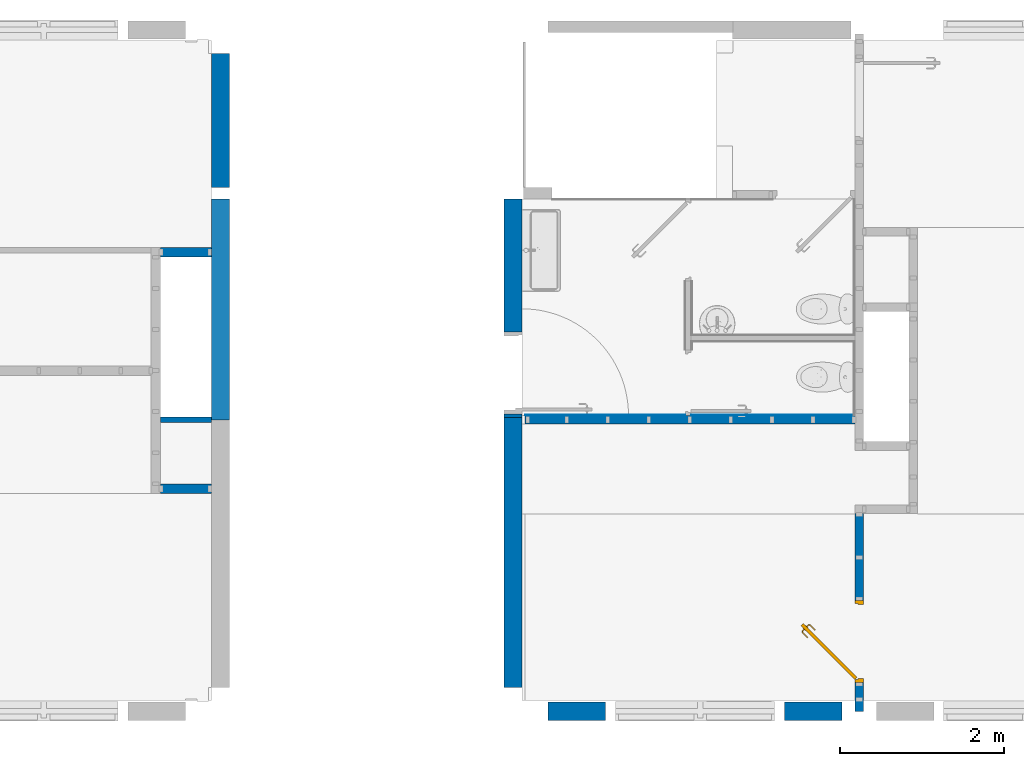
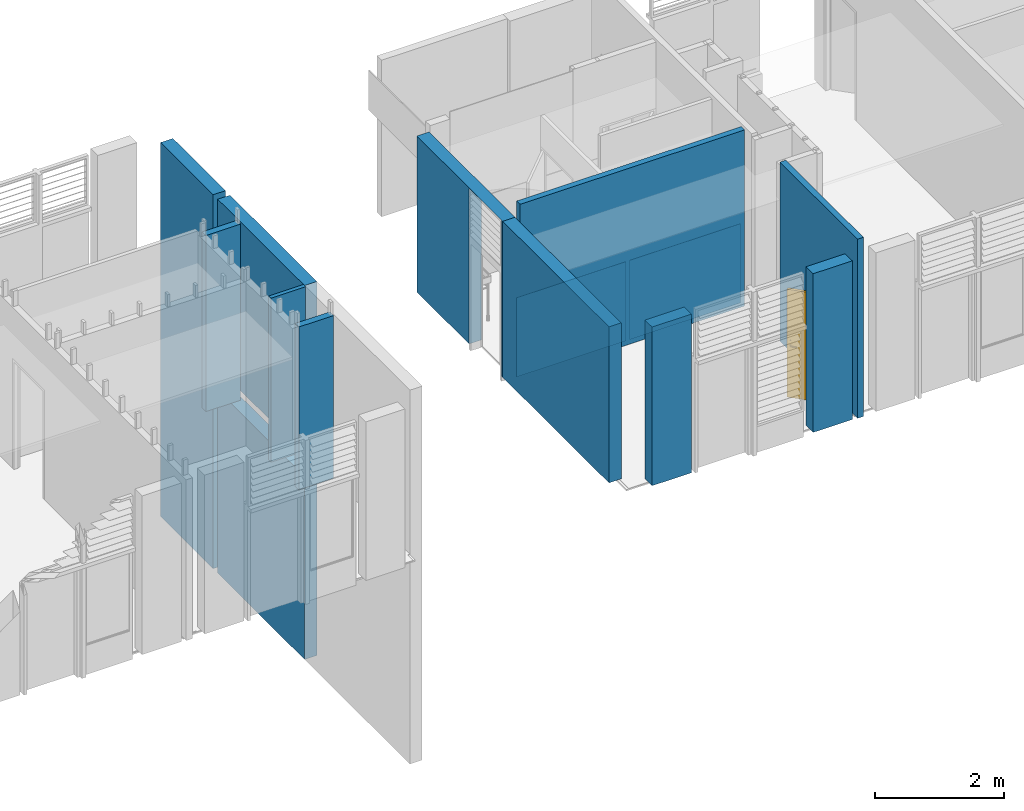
# One storey, part 6 of 20: 14 walls, 1 door, 3 openings.
"""IFC2X3 building model written with IfcOpenShell, lengths in metres."""

from ifc_helpers import new_model, entity, si_unit, converted_unit, derived_unit, direction, frame, frame_2d, origin, place, context, subcontext, project, spatial, rectangle, extrude, faceted_brep, source, transform, mapped, material, layer, layer_set, layer_usage, type_object, type_shapes, element, fill, save


model = new_model("IFC2X3")

# Units and contexts
model_context = context("Model", 3, precision=1e-05, world=origin(), true_north=direction((6.12303176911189e-17, 1.0)))
body_context = subcontext(model_context, "Body", "Model", "MODEL_VIEW")
ifc_project = project(units=[si_unit("LENGTHUNIT", "METRE"), si_unit("AREAUNIT", "SQUARE_METRE"), si_unit("VOLUMEUNIT", "CUBIC_METRE"), converted_unit("PLANEANGLEUNIT", "DEGREE", entity("IfcRatioMeasure", 0.0174532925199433), si_unit("PLANEANGLEUNIT", "RADIAN"), dimensions=[0, 0, 0, 0, 0, 0, 0]), si_unit("MASSUNIT", "GRAM", prefix="KILO"), derived_unit("MASSDENSITYUNIT", [(si_unit("MASSUNIT", "GRAM", prefix="KILO"), 1), (si_unit("LENGTHUNIT", "METRE"), -3)]), si_unit("TIMEUNIT", "SECOND"), si_unit("FREQUENCYUNIT", "HERTZ"), si_unit("THERMODYNAMICTEMPERATUREUNIT", "DEGREE_CELSIUS"), derived_unit("THERMALTRANSMITTANCEUNIT", [(si_unit("MASSUNIT", "GRAM", prefix="KILO"), 1), (si_unit("THERMODYNAMICTEMPERATUREUNIT", "KELVIN"), -1), (si_unit("TIMEUNIT", "SECOND"), -3)]), derived_unit("VOLUMETRICFLOWRATEUNIT", [(si_unit("LENGTHUNIT", "METRE"), 3), (si_unit("TIMEUNIT", "SECOND"), -1)]), si_unit("ELECTRICCURRENTUNIT", "AMPERE"), si_unit("ELECTRICVOLTAGEUNIT", "VOLT"), si_unit("POWERUNIT", "WATT"), si_unit("FORCEUNIT", "NEWTON", prefix="KILO"), si_unit("ILLUMINANCEUNIT", "LUX"), si_unit("LUMINOUSFLUXUNIT", "LUMEN"), si_unit("LUMINOUSINTENSITYUNIT", "CANDELA"), derived_unit("USERDEFINED", [(si_unit("MASSUNIT", "GRAM", prefix="KILO"), -1), (si_unit("LENGTHUNIT", "METRE"), -2), (si_unit("TIMEUNIT", "SECOND"), 3), (si_unit("LUMINOUSFLUXUNIT", "LUMEN"), 1)]), derived_unit("LINEARVELOCITYUNIT", [(si_unit("LENGTHUNIT", "METRE"), 1), (si_unit("TIMEUNIT", "SECOND"), -1)]), si_unit("PRESSUREUNIT", "PASCAL"), derived_unit("USERDEFINED", [(si_unit("LENGTHUNIT", "METRE"), -2), (si_unit("MASSUNIT", "GRAM", prefix="KILO"), 1), (si_unit("TIMEUNIT", "SECOND"), -2)])], contexts=[model_context])

# Site, building, storey
site_placement = place(None, origin())
site = spatial("IfcSite", under=ifc_project, at=site_placement, Name="Surface", CompositionType="ELEMENT")
building_placement = place(site_placement, origin())
building = spatial("IfcBuilding", under=site, at=building_placement, Name="ExPREF", CompositionType="ELEMENT")
storey_placement = place(building_placement, frame((0.0, 0.0, 4.27)))
storey = spatial("IfcBuildingStorey", under=building, at=storey_placement, Name="R+1", CompositionType="ELEMENT", Elevation=4.27)

# Walls
ifc_material_1 = material(Name="AA-mur cloison finition")
ifc_layer_1 = layer(ifc_material_1, 0.018)
ifc_material_2 = material(Name="AA-isolant plancher")
ifc_layer_2 = layer(ifc_material_2, 0.08)
ifc_layer_3 = layer(ifc_material_1, 0.018)
ifc_layer_set_1 = layer_set([ifc_layer_1, ifc_layer_2, ifc_layer_3], Name="Mur de base:A-cloison CP 11.6 cm")
ifc_layer_usage_1 = layer_usage(ifc_layer_set_1, "AXIS2", "POSITIVE", -0.058)
wall_type_1 = type_object("IfcWallType", Name="Mur de base:A-cloison CP 11.6 cm", PredefinedType="STANDARD", material=ifc_layer_set_1)
wall_1_placement = place(storey_placement, frame((40.977743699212, -187.76606962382, -0.270000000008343)))
element("IfcWallStandardCase", 1, at=wall_1_placement, inside=storey, type_object=wall_type_1, material=ifc_layer_usage_1, Name="Mur de base:A-cloison CP 11.6 cm", ObjectType="Mur de base:A-cloison CP 11.6 cm", context=body_context, shape_type="SweptSolid", body=[
    extrude(rectangle(XDim=0.621999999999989, YDim=0.115999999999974, at=frame_2d((0.310999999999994, 0.0), x_axis=(-1.0, 0.0))), origin(), (0.0, 0.0, 1.0), 3.33000000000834),
])
ifc_layer_usage_2 = layer_usage(ifc_layer_set_1, "AXIS2", "POSITIVE", -0.058)
wall_2_placement = place(storey_placement, frame((40.977743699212, -190.65006962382, 0.0)))
element("IfcWallStandardCase", 2, at=wall_2_placement, inside=storey, type_object=wall_type_1, material=ifc_layer_usage_2, Name="Mur de base:A-cloison CP 11.6 cm", ObjectType="Mur de base:A-cloison CP 11.6 cm", context=body_context, shape_type="SweptSolid", body=[
    extrude(rectangle(XDim=0.621999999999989, YDim=0.115999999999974, at=frame_2d((0.310999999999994, 0.0), x_axis=(-1.0, 0.0))), origin(), (0.0, 0.0, 1.0), 3.08),
])

# Wall, opening, door
ifc_material_3 = material(Name="AA-peinture blanc satiné")
ifc_layer_4 = layer(ifc_material_3, 0.0125)
ifc_layer_5 = layer(ifc_material_2, 0.08)
ifc_layer_6 = layer(ifc_material_3, 0.0125)
ifc_layer_set_2 = layer_set([ifc_layer_4, ifc_layer_5, ifc_layer_6], Name="Mur de base:A-cloison FC 10.5 cm")
ifc_layer_usage_3 = layer_usage(ifc_layer_set_2, "AXIS2", "NEGATIVE", 0.0525)
wall_type_2 = type_object("IfcWallType", Name="Mur de base:A-cloison FC 10.5 cm", PredefinedType="STANDARD", material=ifc_layer_set_2)
wall_3_placement = place(storey_placement, frame((49.4897436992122, -190.952569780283, 0.0), z_axis=(0.0, 0.0, 1.0), x_axis=(0.0, -1.0, 0.0)))
wall_3 = element("IfcWallStandardCase", 3, at=wall_3_placement, inside=storey, type_object=wall_type_2, material=ifc_layer_usage_3, Name="Mur de base:A-cloison FC 10.5 cm", ObjectType="Mur de base:A-cloison FC 10.5 cm", context=body_context, shape_type="SweptSolid", body=[
    extrude(rectangle(XDim=2.40708152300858, YDim=0.104999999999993, at=frame_2d((1.20354076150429, -1.81799020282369e-15), x_axis=(-1.0, 0.0))), origin(), (0.0, 0.0, 1.0), 3.385),
])
opening_1_placement = place(wall_3_placement, frame((2.05708152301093, 0.0525000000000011, 0.0)))
opening_1 = element("IfcOpeningElement", 4, at=opening_1_placement, cuts=wall_3, Name="Porte intérieur bois:PP (0.93m x 2.04m):1", ObjectType="Opening", context=body_context, shape_type="SweptSolid", body=[
    extrude(rectangle(XDim=2.075, YDim=1.0, at=frame_2d((1.0375, 0.5), x_axis=(1.0, 0.0))), frame((0.0, 0.0, 0.0), z_axis=(0.0, -1.0, 0.0), x_axis=(0.0, 0.0, 1.0)), (0.0, 0.0, 1.0), 0.105),
])
ifc_material_4 = material(Name="AA-Blanc satiné")
door_style = type_object("IfcDoorStyle", Name="PP (0.93m x 2.04m)", ConstructionType="NOTDEFINED", OperationType="SINGLE_SWING_LEFT", ParameterTakesPrecedence=False, Sizeable=False, material=ifc_material_4)
shared_shape = source(origin(), body_context, "Body", "Brep", [
    faceted_brep([(0.316565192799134, -0.584795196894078, 1.00778044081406), (0.313754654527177, -0.587605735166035, 1.007), (0.31375465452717, -0.587605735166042, 0.992999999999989), (0.316565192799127, -0.584795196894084, 0.99221955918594), (0.319429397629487, -0.581930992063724, 0.992219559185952), (0.32223993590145, -0.579120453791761, 0.993000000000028), (0.322239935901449, -0.579120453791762, 1.007), (0.319429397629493, -0.581930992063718, 1.00778044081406), (0.306340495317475, -0.563221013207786, 0.993000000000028), (0.306340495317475, -0.563221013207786, 1.007), (0.302365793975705, -0.56486738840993, 1.00778044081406), (0.302365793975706, -0.545331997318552, 1.00778044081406), (0.298315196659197, -0.543654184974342, 1.00778044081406), (0.298315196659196, -0.56654520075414, 1.00778044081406), (0.294340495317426, -0.568191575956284, 1.007), (0.294340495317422, -0.568191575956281, 0.992999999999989), (0.298315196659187, -0.566545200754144, 0.99221955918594), (0.298315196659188, -0.543654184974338, 0.99221955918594), (0.302365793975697, -0.545331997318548, 0.992219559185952), (0.302365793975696, -0.564867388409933, 0.992219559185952), (0.306340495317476, -0.546978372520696, 0.993000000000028), (0.306340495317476, -0.546978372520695, 1.007), (0.294340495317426, -0.542007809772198, 1.007), (0.294340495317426, -0.542007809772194, 0.992999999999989), (0.36471958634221, -0.488599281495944, 0.993000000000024), (0.361909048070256, -0.485788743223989, 0.992219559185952), (0.359044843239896, -0.48292453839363, 0.99221955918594), (0.356234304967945, -0.480114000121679, 0.992999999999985), (0.356234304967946, -0.480114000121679, 1.007), (0.359044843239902, -0.482924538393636, 1.00778044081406), (0.361909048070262, -0.485788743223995, 1.00778044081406), (0.364719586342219, -0.488599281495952, 1.007), (0.335530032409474, -0.517788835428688, 0.993000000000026), (0.335530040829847, -0.517788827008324, 1.007), (0.330705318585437, -0.51412826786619, 1.0078786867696), (0.322575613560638, -0.513772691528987, 1.007), (0.322575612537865, -0.513772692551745, 0.992999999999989), (0.330705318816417, -0.514128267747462, 0.992121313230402)], [[[0, 1, 2, 3, 4, 5, 6, 7]], [[6, 5, 8, 9]], [[9, 10, 7, 6]], [[10, 11, 12, 13, 0, 7]], [[13, 14, 1, 0]], [[2, 1, 14, 15]], [[15, 16, 3, 2]], [[16, 17, 18, 19, 4, 3]], [[19, 8, 5, 4]], [[9, 8, 20, 21]], [[21, 11, 10, 9]], [[12, 22, 14, 13]], [[15, 14, 22, 23]], [[23, 17, 16, 15]], [[18, 20, 8, 19]], [[24, 25, 26, 27, 28, 29, 30, 31]], [[21, 20, 32, 24, 31, 33]], [[33, 30, 34]], [[35, 34, 29]], [[21, 33, 11]], [[33, 31, 30]], [[28, 35, 29]], [[22, 12, 35]], [[35, 12, 34]], [[12, 11, 34]], [[11, 33, 34]], [[29, 34, 30]], [[22, 35, 28, 27, 36, 23]], [[36, 26, 37]], [[27, 26, 36]], [[17, 23, 36]], [[37, 32, 18]], [[20, 18, 32]], [[32, 25, 24]], [[26, 25, 37]], [[25, 32, 37]], [[17, 36, 37]], [[17, 37, 18]]]),
    faceted_brep([(0.351920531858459, -0.620150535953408, 1.00778044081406), (0.354784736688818, -0.617286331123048, 1.00778044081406), (0.357595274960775, -0.614475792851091, 1.00699999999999), (0.357595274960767, -0.614475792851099, 0.993000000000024), (0.354784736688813, -0.617286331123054, 0.992219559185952), (0.351920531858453, -0.620150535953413, 0.99221955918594), (0.349109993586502, -0.622961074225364, 0.992999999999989), (0.349109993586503, -0.622961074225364, 1.007), (0.368662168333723, -0.642513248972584, 1.007), (0.370308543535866, -0.638538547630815, 1.00778044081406), (0.3930050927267, -0.638538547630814, 1.00778044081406), (0.391327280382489, -0.634487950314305, 1.00778044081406), (0.371986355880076, -0.634487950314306, 1.00778044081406), (0.373632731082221, -0.630513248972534, 1.007), (0.373632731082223, -0.630513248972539, 0.993000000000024), (0.371986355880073, -0.634487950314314, 0.992219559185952), (0.391327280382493, -0.634487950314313, 0.992219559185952), (0.393005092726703, -0.638538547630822, 0.99221955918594), (0.370308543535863, -0.638538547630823, 0.99221955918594), (0.368662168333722, -0.642513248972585, 0.992999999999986), (0.394651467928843, -0.642513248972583, 1.007), (0.389680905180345, -0.630513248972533, 1.007), (0.38968090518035, -0.630513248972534, 0.993000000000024), (0.394651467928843, -0.642513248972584, 0.992999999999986), (0.456623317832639, -0.580541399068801, 0.992999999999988), (0.453812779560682, -0.577730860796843, 0.99221955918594), (0.450948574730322, -0.574866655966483, 0.992219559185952), (0.448138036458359, -0.57205611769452, 0.993000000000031), (0.44813803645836, -0.572056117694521, 1.007), (0.450948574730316, -0.574866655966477, 1.00778044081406), (0.453812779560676, -0.577730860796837, 1.00778044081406), (0.456623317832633, -0.580541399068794, 1.00699999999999), (0.422886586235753, -0.614278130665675, 1.007), (0.422570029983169, -0.606109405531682, 1.0078786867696), (0.418909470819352, -0.601284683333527, 1.007), (0.418909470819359, -0.601284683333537, 0.993000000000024), (0.422570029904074, -0.606109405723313, 0.992121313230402), (0.422886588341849, -0.614278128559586, 0.992999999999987)], [[[0, 1, 2, 3, 4, 5, 6, 7]], [[8, 9, 0, 7]], [[9, 10, 11, 12, 1, 0]], [[12, 13, 2, 1]], [[3, 2, 13, 14]], [[14, 15, 4, 3]], [[15, 16, 17, 18, 5, 4]], [[18, 19, 6, 5]], [[7, 6, 19, 8]], [[20, 10, 9, 8]], [[11, 21, 13, 12]], [[14, 13, 21, 22]], [[22, 16, 15, 14]], [[17, 23, 19, 18]], [[8, 19, 23, 20]], [[24, 25, 26, 27, 28, 29, 30, 31]], [[32, 30, 33]], [[31, 30, 32]], [[10, 20, 32]], [[33, 34, 11]], [[21, 11, 34]], [[34, 29, 28]], [[30, 29, 33]], [[29, 34, 33]], [[10, 32, 33]], [[10, 33, 11]], [[22, 21, 34, 28, 27, 35]], [[35, 26, 36]], [[37, 36, 25]], [[22, 35, 16]], [[35, 27, 26]], [[24, 37, 25]], [[23, 17, 37]], [[37, 17, 36]], [[17, 16, 36]], [[16, 35, 36]], [[25, 36, 26]], [[20, 23, 37, 24, 31, 32]]]),
    faceted_brep([(0.328853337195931, -0.579578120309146, 0.866003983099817), (0.335674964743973, -0.572756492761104, 0.870000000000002), (0.335674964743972, -0.572756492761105, 1.08), (0.32885333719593, -0.579578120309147, 1.08399601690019), (0.321532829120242, -0.586898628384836, 1.08535898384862), (0.314212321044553, -0.594219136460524, 1.08399601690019), (0.307390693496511, -0.601040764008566, 1.08), (0.307390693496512, -0.601040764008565, 0.870000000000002), (0.314212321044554, -0.594219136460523, 0.866003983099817), (0.321532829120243, -0.586898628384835, 0.86464101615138), (0.325317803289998, -0.576042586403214, 1.08399601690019), (0.33213943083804, -0.569220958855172, 1.08), (0.332139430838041, -0.569220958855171, 0.870000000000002), (0.325317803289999, -0.576042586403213, 0.866003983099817), (0.31799729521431, -0.583363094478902, 0.86464101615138), (0.310676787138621, -0.59068360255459, 0.866003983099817), (0.303855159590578, -0.597505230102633, 0.870000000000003), (0.303855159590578, -0.597505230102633, 1.08), (0.31067678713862, -0.590683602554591, 1.08399601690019), (0.317997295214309, -0.583363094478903, 1.08535898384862)], [[[0, 1, 2, 3, 4, 5, 6, 7, 8, 9]], [[10, 11, 12, 13, 14, 15, 16, 17, 18, 19]], [[11, 10, 3, 2]], [[3, 10, 19, 4]], [[19, 18, 5, 4]], [[18, 17, 6, 5]], [[7, 6, 17, 16]], [[16, 15, 8, 7]], [[8, 15, 14, 9]], [[14, 13, 0, 9]], [[13, 12, 1, 0]], [[2, 1, 12, 11]]]),
    faceted_brep([(0.360673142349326, -0.61139792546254, 0.866003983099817), (0.367494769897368, -0.604576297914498, 0.870000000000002), (0.367494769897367, -0.604576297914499, 1.08), (0.360673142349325, -0.611397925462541, 1.08399601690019), (0.353352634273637, -0.61871843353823, 1.08535898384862), (0.346032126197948, -0.626038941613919, 1.08399601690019), (0.339210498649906, -0.632860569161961, 1.08), (0.339210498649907, -0.63286056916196, 0.870000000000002), (0.346032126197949, -0.626038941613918, 0.866003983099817), (0.353352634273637, -0.618718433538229, 0.86464101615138), (0.357137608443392, -0.607862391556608, 1.08399601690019), (0.363959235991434, -0.601040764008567, 1.08), (0.363959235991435, -0.601040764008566, 0.870000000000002), (0.357137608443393, -0.607862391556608, 0.866003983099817), (0.349817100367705, -0.615182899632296, 0.86464101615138), (0.342496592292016, -0.622503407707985, 0.866003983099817), (0.335674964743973, -0.629325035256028, 0.870000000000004), (0.335674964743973, -0.629325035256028, 1.08), (0.342496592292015, -0.622503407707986, 1.08399601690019), (0.349817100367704, -0.615182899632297, 1.08535898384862)], [[[0, 1, 2, 3, 4, 5, 6, 7, 8, 9]], [[10, 11, 12, 13, 14, 15, 16, 17, 18, 19]], [[16, 15, 8, 7]], [[8, 15, 14, 9]], [[14, 13, 0, 9]], [[13, 12, 1, 0]], [[2, 1, 12, 11]], [[11, 10, 3, 2]], [[3, 10, 19, 4]], [[19, 18, 5, 4]], [[18, 17, 6, 5]], [[7, 6, 17, 16]]]),
    faceted_brep([(0.279106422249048, -0.629325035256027, 2.04), (0.936715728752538, 0.0282842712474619, 2.04), (0.936715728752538, 0.0282842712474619, 0.0), (0.279106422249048, -0.629325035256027, 0.0), (0.30739069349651, -0.657609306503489, 2.04), (0.30739069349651, -0.657609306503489, 0.0), (0.965, 0.0, 0.0), (0.965, 0.0, 2.04)], [[[0, 1, 2, 3]], [[4, 5, 6, 7]], [[1, 0, 4, 7]], [[2, 1, 7, 6]], [[3, 2, 6, 5]], [[0, 3, 5, 4]]]),
    faceted_brep([(0.0, 0.0, 0.0), (0.0, 0.105000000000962, 0.0), (0.0499999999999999, 0.105000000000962, 0.0), (0.0499999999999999, 0.0400000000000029, 0.0), (0.0349999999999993, 0.0400000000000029, 0.0), (0.0349999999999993, 0.0, 0.0), (0.0, 0.0, 2.07500000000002), (0.0, 0.105000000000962, 2.07500000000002), (1.0, 0.105000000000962, 2.07500000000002), (1.0, 0.105000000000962, 0.0), (0.95, 0.105000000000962, 0.0), (0.95, 0.105000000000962, 2.025), (0.0500000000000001, 0.105000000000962, 2.025), (0.05, 0.0400000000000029, 2.025), (0.95, 0.0400000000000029, 2.025), (0.95, 0.0400000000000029, 0.0), (0.965, 0.0400000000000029, 0.0), (0.965, 0.0400000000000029, 2.04), (0.0349999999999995, 0.0400000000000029, 2.04), (0.0349999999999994, 0.0, 2.04), (0.965, 0.0, 2.04), (0.965, 0.0, 0.0), (1.0, 0.0, 0.0), (1.0, 0.0, 2.07500000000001)], [[[0, 1, 2, 3, 4, 5]], [[1, 0, 6, 7]], [[2, 1, 7, 8, 9, 10, 11, 12]], [[3, 2, 12, 13]], [[4, 3, 13, 14, 15, 16, 17, 18]], [[5, 4, 18, 19]], [[0, 5, 19, 20, 21, 22, 23, 6]], [[8, 23, 22, 9]], [[22, 21, 16, 15, 10, 9]], [[14, 11, 10, 15]], [[20, 17, 16, 21]], [[7, 6, 23, 8]], [[13, 12, 11, 14]], [[19, 18, 17, 20]]]),
])
type_shapes(door_style, [shared_shape])
door_placement = place(opening_1_placement, frame((-1.0, -0.105000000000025, 0.0)))
door = element("IfcDoor", 5, at=door_placement, inside=storey, type_object=door_style, material=ifc_material_4, Name="Porte intérieur bois:PP (0.93m x 2.04m)", ObjectType="PP (0.93m x 2.04m)", OverallHeight=2.075, OverallWidth=1.00000000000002, context=body_context, shape_type="MappedRepresentation", body=[
    mapped(shared_shape, transform((0.0, 0.0, 0.0), scale=1.0)),
])
fill(opening_1, door)

# Wall, opening
ifc_layer_usage_4 = layer_usage(ifc_layer_set_2, "AXIS2", "NEGATIVE", 0.0525)
wall_4_placement = place(storey_placement, frame((45.419743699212, -189.80806962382, 0.0)))
wall_4 = element("IfcWallStandardCase", 6, at=wall_4_placement, inside=storey, type_object=wall_type_2, material=ifc_layer_usage_4, Name="Mur de base:A-cloison FC 10.5 cm", ObjectType="Mur de base:A-cloison FC 10.5 cm", context=body_context, shape_type="SweptSolid", body=[
    extrude(rectangle(XDim=4.01750000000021, YDim=0.104999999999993, at=frame_2d((2.00875000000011, 0.0), x_axis=(-1.0, 0.0))), origin(), (0.0, 0.0, 1.0), 3.33),
])
opening_2_placement = place(wall_4_placement, frame((1.95400000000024, 0.0524999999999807, 0.0)))
element("IfcOpeningElement", 7, at=opening_2_placement, cuts=wall_4, Name="Mur de base:A-cloison FC 10.5 cm", ObjectType="Opening", context=body_context, shape_type="SweptSolid", body=[
    extrude(rectangle(XDim=2.075, YDim=0.0700000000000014, at=frame_2d((0.0, 0.0), x_axis=(0.0, 1.0))), frame((0.0350000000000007, 0.0, 1.0375), z_axis=(0.0, 1.0, 0.0), x_axis=(1.0, 0.0, 0.0)), (0.0, 0.0, 1.0), 0.800000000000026),
])

# Walls
ifc_material_5 = material(Name="AA-fermacell peint")
ifc_layer_7 = layer(ifc_material_5, 0.0125)
ifc_layer_8 = layer(ifc_material_2, 0.045)
ifc_layer_9 = layer(ifc_material_5, 0.0125)
ifc_layer_set_3 = layer_set([ifc_layer_7, ifc_layer_8, ifc_layer_9], Name="Mur de base:Générique - Int. 70 mm")
ifc_layer_usage_5 = layer_usage(ifc_layer_set_3, "AXIS2", "POSITIVE", -0.035)
wall_type_3 = type_object("IfcWallType", Name="Mur de base:Générique - Int. 70 mm", PredefinedType="STANDARD", material=ifc_layer_set_3)
wall_5_placement = place(storey_placement, frame((40.977743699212, -189.80806962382, 0.0)))
element("IfcWallStandardCase", 8, at=wall_5_placement, inside=storey, type_object=wall_type_3, material=ifc_layer_usage_5, Name="Mur de base:Générique - Int. 70 mm", ObjectType="Mur de base:Générique - Int. 70 mm", context=body_context, shape_type="SweptSolid", body=[
    extrude(rectangle(XDim=0.621999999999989, YDim=0.0700000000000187, at=frame_2d((0.310999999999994, 0.0), x_axis=(-1.0, 0.0))), origin(), (0.0, 0.0, 1.0), 3.1),
])
ifc_material_6 = material(Name="AA-BTC")
ifc_layer_10 = layer(ifc_material_6, 0.22)
ifc_layer_set_4 = layer_set([ifc_layer_10], Name="Mur de base:A-prémur BTC")
ifc_layer_usage_6 = layer_usage(ifc_layer_set_4, "AXIS2", "POSITIVE", -0.11)
wall_type_4 = type_object("IfcWallType", Name="Mur de base:A-prémur BTC", PredefinedType="STANDARD", material=ifc_layer_set_4)
wall_6_placement = place(storey_placement, frame((41.709743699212, -185.346488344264, -3.9700000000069), z_axis=(0.0, 0.0, 1.0), x_axis=(0.0, -1.0, 0.0)))
element("IfcWallStandardCase", 9, at=wall_6_placement, inside=storey, type_object=wall_type_4, material=ifc_layer_usage_6, Name="Mur de base:A-prémur BTC", ObjectType="Mur de base:A-prémur BTC", context=body_context, shape_type="SweptSolid", body=[
    extrude(rectangle(XDim=1.62999991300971, YDim=0.220000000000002, at=frame_2d((0.814999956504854, 0.0), x_axis=(-1.0, 0.0))), origin(), (0.0, 0.0, 1.0), 7.07000000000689),
])
ifc_layer_usage_7 = layer_usage(ifc_layer_set_4, "AXIS2", "NEGATIVE", 0.11)
wall_7_placement = place(storey_placement, frame((45.269743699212, -193.069651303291, 0.0999999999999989), z_axis=(0.0, 0.0, 1.0), x_axis=(0.0, 1.0, 0.0)))
element("IfcWallStandardCase", 10, at=wall_7_placement, inside=storey, type_object=wall_type_4, material=ifc_layer_usage_7, Name="Mur de base:A-prémur BTC", ObjectType="Mur de base:A-prémur BTC", context=body_context, shape_type="SweptSolid", body=[
    extrude(rectangle(XDim=3.29158167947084, YDim=0.220000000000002, at=frame_2d((1.64579083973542, 0.0), x_axis=(-1.0, 0.0))), origin(), (0.0, 0.0, 1.0), 2.95),
])
ifc_layer_usage_8 = layer_usage(ifc_layer_set_4, "AXIS2", "NEGATIVE", 0.11)
wall_8_placement = place(storey_placement, frame((45.6997436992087, -193.35965130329, 0.0999999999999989)))
element("IfcWallStandardCase", 11, at=wall_8_placement, inside=storey, type_object=wall_type_4, material=ifc_layer_usage_8, Name="Mur de base:A-prémur BTC", ObjectType="Mur de base:A-prémur BTC", context=body_context, shape_type="SweptSolid", body=[
    extrude(rectangle(XDim=0.699999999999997, YDim=0.220000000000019, at=frame_2d((0.349999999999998, -4.47558656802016e-15), x_axis=(-1.0, 0.0))), origin(), (0.0, 0.0, 1.0), 3.0),
])
ifc_layer_usage_9 = layer_usage(ifc_layer_set_4, "AXIS2", "POSITIVE", -0.11)
wall_9_placement = place(storey_placement, frame((49.2797436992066, -193.35965130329, 0.0999999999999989), z_axis=(0.0, 0.0, 1.0), x_axis=(-1.0, 0.0, 0.0)))
element("IfcWallStandardCase", 12, at=wall_9_placement, inside=storey, type_object=wall_type_4, material=ifc_layer_usage_9, Name="Mur de base:A-prémur BTC", ObjectType="Mur de base:A-prémur BTC", context=body_context, shape_type="SweptSolid", body=[
    extrude(rectangle(XDim=0.700000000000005, YDim=0.220000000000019, at=frame_2d((0.350000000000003, -4.47558656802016e-15), x_axis=(-1.0, 0.0))), origin(), (0.0, 0.0, 1.0), 3.0),
])

# Wall, opening
ifc_layer_usage_10 = layer_usage(ifc_layer_set_4, "AXIS2", "NEGATIVE", 0.11)
wall_10_placement = place(storey_placement, frame((45.269743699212, -189.77806962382, 0.0999999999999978), z_axis=(0.0, 0.0, 1.0), x_axis=(0.0, 1.0, 0.0)))
wall_10 = element("IfcWallStandardCase", 13, at=wall_10_placement, inside=storey, type_object=wall_type_4, material=ifc_layer_usage_10, Name="Mur de base:A-prémur BTC", ObjectType="Mur de base:A-prémur BTC", context=body_context, shape_type="SweptSolid", body=[
    extrude(rectangle(XDim=2.66158136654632, YDim=0.220000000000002, at=frame_2d((1.33079068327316, 4.78783679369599e-16), x_axis=(-1.0, 0.0))), origin(), (0.0, 0.0, 1.0), 2.94999999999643),
])
opening_3_placement = place(wall_10_placement, frame((1.04000000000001, 0.109999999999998, -0.0999999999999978)))
element("IfcOpeningElement", 14, at=opening_3_placement, cuts=wall_10, Name="Porte extérieur + naco R+1:PP (0.93m x 2.04m):1", ObjectType="Opening", context=body_context, shape_type="SweptSolid", body=[
    extrude(rectangle(XDim=3.04571000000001, YDim=0.999999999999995, at=frame_2d((1.52285500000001, 0.499999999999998), x_axis=(1.0, 0.0))), frame((0.0, 0.0, 0.0), z_axis=(0.0, -1.0, 0.0), x_axis=(0.0, 0.0, 1.0)), (0.0, 0.0, 1.0), 0.22),
])

# Walls
ifc_layer_usage_11 = layer_usage(ifc_layer_set_4, "AXIS2", "POSITIVE", -0.11)
wall_11_placement = place(storey_placement, frame((41.709743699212, -187.116488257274, -3.9700000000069), z_axis=(0.0, 0.0, 1.0), x_axis=(0.0, -1.0, 0.0)))
element("IfcWallStandardCase", 15, at=wall_11_placement, inside=storey, type_object=wall_type_4, material=ifc_layer_usage_11, Name="Mur de base:A-prémur BTC", ObjectType="Mur de base:A-prémur BTC", context=body_context, shape_type="SweptSolid", body=[
    extrude(rectangle(XDim=2.69158136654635, YDim=0.220000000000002, at=frame_2d((1.34579068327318, 0.0), x_axis=(-1.0, 0.0))), origin(), (0.0, 0.0, 1.0), 3.46000000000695),
])
ifc_layer_usage_12 = layer_usage(ifc_layer_set_4, "AXIS2", "POSITIVE", -0.11)
wall_12_placement = place(storey_placement, frame((41.709743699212, -187.116488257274, -0.0899999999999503), z_axis=(0.0, 0.0, 1.0), x_axis=(0.0, -1.0, 0.0)))
element("IfcWallStandardCase", 16, at=wall_12_placement, inside=storey, type_object=wall_type_4, material=ifc_layer_usage_12, Name="Mur de base:A-prémur BTC", ObjectType="Mur de base:A-prémur BTC", context=body_context, shape_type="SweptSolid", body=[
    extrude(rectangle(XDim=2.69158136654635, YDim=0.220000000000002, at=frame_2d((1.34579068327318, 0.0), x_axis=(-1.0, 0.0))), origin(), (0.0, 0.0, 1.0), 3.18999999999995),
])
ifc_material_7 = material(Name="AA-sol carrelage")
ifc_layer_11 = layer(ifc_material_7, 0.01)
ifc_layer_set_5 = layer_set([ifc_layer_11], Name="Mur de base:A-carrelage")
ifc_layer_usage_13 = layer_usage(ifc_layer_set_5, "AXIS2", "NEGATIVE", 0.005)
wall_type_5 = type_object("IfcWallType", Name="Mur de base:A-carrelage", PredefinedType="STANDARD", material=ifc_layer_set_5)
wall_13_placement = place(storey_placement, frame((49.4272436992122, -189.75056962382, 0.0), z_axis=(0.0, 0.0, 1.0), x_axis=(-1.0, 0.0, 0.0)))
element("IfcWallStandardCase", 17, at=wall_13_placement, inside=storey, type_object=wall_type_5, material=ifc_layer_usage_13, Name="Mur de base:A-carrelage", ObjectType="Mur de base:A-carrelage", context=body_context, shape_type="SweptSolid", body=[
    extrude(rectangle(XDim=1.98349999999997, YDim=0.0100000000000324, at=frame_2d((0.991749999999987, 0.0), x_axis=(-1.0, 0.0))), origin(), (0.0, 0.0, 1.0), 1.5),
])
ifc_layer_usage_14 = layer_usage(ifc_layer_set_5, "AXIS2", "NEGATIVE", 0.005)
wall_14_placement = place(storey_placement, frame((47.3737436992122, -189.75056962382, 0.0), z_axis=(0.0, 0.0, 1.0), x_axis=(-1.0, 0.0, 0.0)))
element("IfcWallStandardCase", 18, at=wall_14_placement, inside=storey, type_object=wall_type_5, material=ifc_layer_usage_14, Name="Mur de base:A-carrelage", ObjectType="Mur de base:A-carrelage", context=body_context, shape_type="SweptSolid", body=[
    extrude(rectangle(XDim=1.95400000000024, YDim=0.0100000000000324, at=frame_2d((0.97700000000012, 0.0), x_axis=(-1.0, 0.0))), origin(), (0.0, 0.0, 1.0), 1.5),
])

save(model, "model.ifc")
